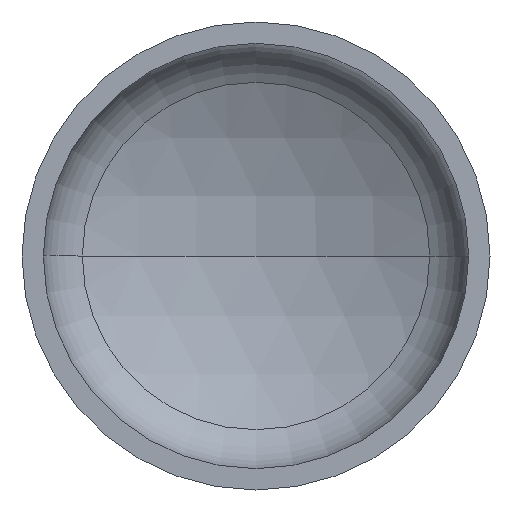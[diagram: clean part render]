
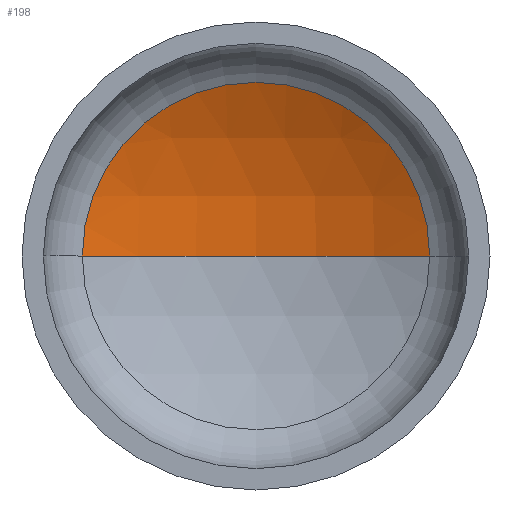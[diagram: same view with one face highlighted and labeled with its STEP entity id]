
A CAD part, front view. The second image highlights one B-rep face of the part: STEP entity #198.
In plain terms, the highlighted spherical face has radius 720 mm.
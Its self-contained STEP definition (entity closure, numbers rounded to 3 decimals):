
#7 = AXIS2_PLACEMENT_3D ( 'NONE', #38, #138, #348 ) ;
#16 = AXIS2_PLACEMENT_3D ( 'NONE', #168, #169, #175 ) ;
#24 = EDGE_LOOP ( 'NONE', ( #57, #148, #141 ) ) ;
#28 = VERTEX_POINT ( 'NONE', #251 ) ;
#32 = CARTESIAN_POINT ( 'NONE',  ( 0., -383.847, 0. ) ) ;
#38 = CARTESIAN_POINT ( 'NONE',  ( 0., -383.847, 0. ) ) ;
#45 = AXIS2_PLACEMENT_3D ( 'NONE', #32, #146, #410 ) ;
#49 = AXIS2_PLACEMENT_3D ( 'NONE', #303, #302, #301 ) ;
#57 = ORIENTED_EDGE ( 'NONE', *, *, #333, .F. ) ;
#62 = VERTEX_POINT ( 'NONE', #292 ) ;
#85 = EDGE_CURVE ( 'NONE', #97, #28, #398, .T. ) ;
#97 = VERTEX_POINT ( 'NONE', #196 ) ;
#138 = DIRECTION ( 'NONE',  ( 0., 0., -1. ) ) ;
#141 = ORIENTED_EDGE ( 'NONE', *, *, #85, .T. ) ;
#146 = DIRECTION ( 'NONE',  ( 0., 0., -1. ) ) ;
#148 = ORIENTED_EDGE ( 'NONE', *, *, #352, .T. ) ;
#168 = CARTESIAN_POINT ( 'NONE',  ( 0., -383.847, 0. ) ) ;
#169 = DIRECTION ( 'NONE',  ( 0., 0., 1. ) ) ;
#175 = DIRECTION ( 'NONE',  ( 1., 0., 0. ) ) ;
#196 = CARTESIAN_POINT ( 'NONE',  ( 333.931, 254.032, 0. ) ) ;
#198 = ADVANCED_FACE ( 'NONE', ( #255 ), #205, .F. ) ;
#205 = SPHERICAL_SURFACE ( 'NONE', #45, 720. ) ;
#251 = CARTESIAN_POINT ( 'NONE',  ( -333.931, 254.032, 0. ) ) ;
#255 = FACE_OUTER_BOUND ( 'NONE', #24, .T. ) ;
#275 = CIRCLE ( 'NONE', #7, 720. ) ;
#292 = CARTESIAN_POINT ( 'NONE',  ( 0., 336.153, 0. ) ) ;
#301 = DIRECTION ( 'NONE',  ( 1., 0., 0. ) ) ;
#302 = DIRECTION ( 'NONE',  ( 0., -1., 0. ) ) ;
#303 = CARTESIAN_POINT ( 'NONE',  ( 0., 254.032, 0. ) ) ;
#333 = EDGE_CURVE ( 'NONE', #62, #28, #373, .T. ) ;
#348 = DIRECTION ( 'NONE',  ( -1., 0., 0. ) ) ;
#352 = EDGE_CURVE ( 'NONE', #62, #97, #275, .T. ) ;
#373 = CIRCLE ( 'NONE', #16, 720. ) ;
#398 = CIRCLE ( 'NONE', #49, 333.931 ) ;
#410 = DIRECTION ( 'NONE',  ( -1., 0., 0. ) ) ;
